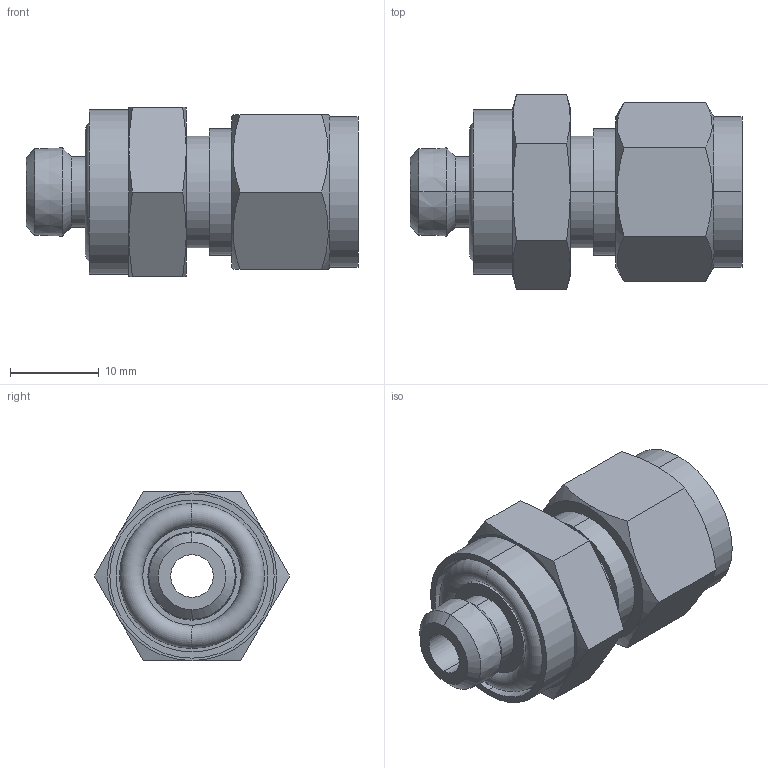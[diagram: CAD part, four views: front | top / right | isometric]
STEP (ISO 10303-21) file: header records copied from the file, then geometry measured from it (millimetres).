
FILE_DESCRIPTION (( 'STEP AP203' ), '1' );
FILE_NAME ('DCM06-02 SS.STEP', '2009-09-08T04:57:17', ( ' ' ), ( '' ), 'SwSTEP 2.0', 'SolidWorks 2008', '' );
FILE_SCHEMA (( 'CONFIG_CONTROL_DESIGN' ));
Length unit declared in the file: millimetre
Products named in the file (1): DCM06-02 SS
Bounding box: 37.4 x 22 x 19.05 mm (x, y, z)
Volume: 6286.5 mm3; surface area: 4173 mm2
Topology: 2 solids, 2 shells, 70 faces, 152 edges, 92 vertices
Faces by surface type: cone 24, plane 22, cylinder 20, torus 4
Entity records: 2159 total; most frequent: CARTESIAN_POINT 571, DIRECTION 322, ORIENTED_EDGE 304, EDGE_CURVE 152, AXIS2_PLACEMENT_3D 139, VERTEX_POINT 92, EDGE_LOOP 80, ADVANCED_FACE 70
